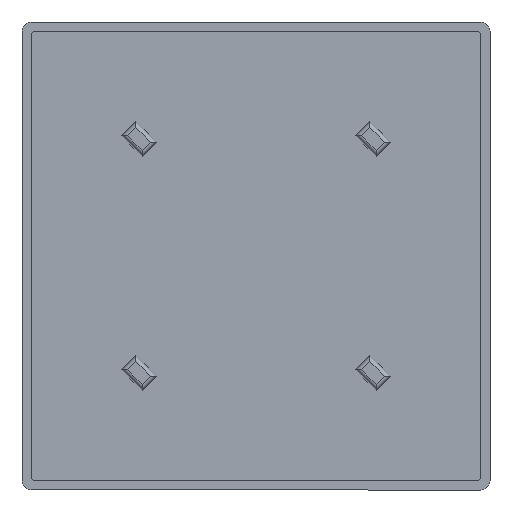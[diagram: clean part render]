
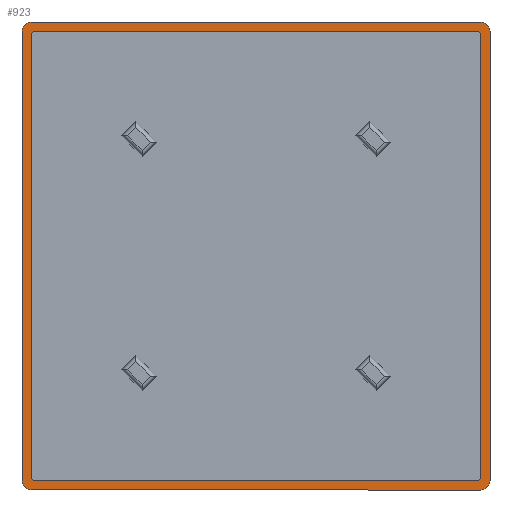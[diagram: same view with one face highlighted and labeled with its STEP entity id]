
A CAD part, front view. The second image highlights one B-rep face of the part: STEP entity #923.
In plain terms, the highlighted planar face has unit normal (0, -1, 0).
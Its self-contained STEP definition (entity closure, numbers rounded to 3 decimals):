
#23 = CARTESIAN_POINT ( 'NONE',  ( -50., -2., -48. ) ) ;
#24 = CIRCLE ( 'NONE', #120, 2. ) ;
#41 = AXIS2_PLACEMENT_3D ( 'NONE', #1073, #943, #793 ) ;
#57 = AXIS2_PLACEMENT_3D ( 'NONE', #1693, #448, #441 ) ;
#58 = CARTESIAN_POINT ( 'NONE',  ( -47.2, -2., 48. ) ) ;
#75 = VERTEX_POINT ( 'NONE', #537 ) ;
#84 = VECTOR ( 'NONE', #521, 1000. ) ;
#120 = AXIS2_PLACEMENT_3D ( 'NONE', #883, #864, #765 ) ;
#122 = VERTEX_POINT ( 'NONE', #622 ) ;
#126 = CARTESIAN_POINT ( 'NONE',  ( -50., -2., 48. ) ) ;
#140 = ORIENTED_EDGE ( 'NONE', *, *, #1004, .F. ) ;
#149 = DIRECTION ( 'NONE',  ( 0., 0., 1. ) ) ;
#178 = LINE ( 'NONE', #1488, #557 ) ;
#179 = CIRCLE ( 'NONE', #41, 2. ) ;
#197 = AXIS2_PLACEMENT_3D ( 'NONE', #1352, #1349, #1345 ) ;
#263 = ORIENTED_EDGE ( 'NONE', *, *, #680, .F. ) ;
#278 = CARTESIAN_POINT ( 'NONE',  ( 48., -2., -47.2 ) ) ;
#287 = ORIENTED_EDGE ( 'NONE', *, *, #1318, .F. ) ;
#311 = CARTESIAN_POINT ( 'NONE',  ( -47.2, -2., -48. ) ) ;
#354 = ORIENTED_EDGE ( 'NONE', *, *, #1249, .F. ) ;
#377 = LINE ( 'NONE', #810, #852 ) ;
#381 = ORIENTED_EDGE ( 'NONE', *, *, #648, .F. ) ;
#385 = CARTESIAN_POINT ( 'NONE',  ( 47.2, -2., 47.2 ) ) ;
#387 = ORIENTED_EDGE ( 'NONE', *, *, #460, .F. ) ;
#405 = ORIENTED_EDGE ( 'NONE', *, *, #1195, .F. ) ;
#417 = VERTEX_POINT ( 'NONE', #1804 ) ;
#431 = DIRECTION ( 'NONE',  ( 0., 0., 1. ) ) ;
#441 = DIRECTION ( 'NONE',  ( 0., 0., 1. ) ) ;
#443 = CARTESIAN_POINT ( 'NONE',  ( -48., -2., -47.2 ) ) ;
#448 = DIRECTION ( 'NONE',  ( 0., 1., 0. ) ) ;
#449 = VERTEX_POINT ( 'NONE', #1573 ) ;
#460 = EDGE_CURVE ( 'NONE', #417, #1446, #532, .T. ) ;
#487 = EDGE_CURVE ( 'NONE', #75, #417, #1572, .T. ) ;
#512 = EDGE_CURVE ( 'NONE', #612, #75, #24, .T. ) ;
#517 = ORIENTED_EDGE ( 'NONE', *, *, #1225, .F. ) ;
#521 = DIRECTION ( 'NONE',  ( 0., 0., -1. ) ) ;
#529 = FACE_OUTER_BOUND ( 'NONE', #839, .T. ) ;
#532 = CIRCLE ( 'NONE', #197, 2. ) ;
#537 = CARTESIAN_POINT ( 'NONE',  ( -48., -2., 50. ) ) ;
#547 = DIRECTION ( 'NONE',  ( 0., 0., -1. ) ) ;
#557 = VECTOR ( 'NONE', #149, 1000. ) ;
#561 = CARTESIAN_POINT ( 'NONE',  ( -47.2, -2., 47.2 ) ) ;
#565 = VERTEX_POINT ( 'NONE', #571 ) ;
#568 = EDGE_CURVE ( 'NONE', #884, #1111, #1183, .T. ) ;
#571 = CARTESIAN_POINT ( 'NONE',  ( 47.2, -2., -48. ) ) ;
#590 = AXIS2_PLACEMENT_3D ( 'NONE', #1600, #799, #1719 ) ;
#594 = DIRECTION ( 'NONE',  ( 0., 1., 0. ) ) ;
#612 = VERTEX_POINT ( 'NONE', #126 ) ;
#622 = CARTESIAN_POINT ( 'NONE',  ( -47.2, -2., 48. ) ) ;
#634 = ORIENTED_EDGE ( 'NONE', *, *, #487, .F. ) ;
#648 = EDGE_CURVE ( 'NONE', #775, #449, #179, .T. ) ;
#653 = AXIS2_PLACEMENT_3D ( 'NONE', #1233, #594, #431 ) ;
#661 = ORIENTED_EDGE ( 'NONE', *, *, #1060, .F. ) ;
#680 = EDGE_CURVE ( 'NONE', #449, #884, #978, .T. ) ;
#684 = LINE ( 'NONE', #711, #1403 ) ;
#689 = CARTESIAN_POINT ( 'NONE',  ( -47.2, -2., -47.2 ) ) ;
#704 = ORIENTED_EDGE ( 'NONE', *, *, #976, .F. ) ;
#711 = CARTESIAN_POINT ( 'NONE',  ( -50., -2., 48. ) ) ;
#712 = LINE ( 'NONE', #58, #1734 ) ;
#726 = DIRECTION ( 'NONE',  ( 0., 0., -1. ) ) ;
#761 = LINE ( 'NONE', #1437, #1083 ) ;
#765 = DIRECTION ( 'NONE',  ( 0., 0., 1. ) ) ;
#775 = VERTEX_POINT ( 'NONE', #783 ) ;
#777 = CARTESIAN_POINT ( 'NONE',  ( -48., -2., -50. ) ) ;
#783 = CARTESIAN_POINT ( 'NONE',  ( 50., -2., -48. ) ) ;
#789 = CIRCLE ( 'NONE', #1826, 0.8 ) ;
#792 = ORIENTED_EDGE ( 'NONE', *, *, #568, .F. ) ;
#793 = DIRECTION ( 'NONE',  ( 0., 0., 1. ) ) ;
#799 = DIRECTION ( 'NONE',  ( 0., -1., 0. ) ) ;
#810 = CARTESIAN_POINT ( 'NONE',  ( -48., -2., 47.2 ) ) ;
#839 = EDGE_LOOP ( 'NONE', ( #792, #263, #381, #892, #387, #634, #1041, #517 ) ) ;
#845 = DIRECTION ( 'NONE',  ( 0., 0., -1. ) ) ;
#852 = VECTOR ( 'NONE', #1728, 1000. ) ;
#853 = FACE_BOUND ( 'NONE', #957, .T. ) ;
#862 = VERTEX_POINT ( 'NONE', #1153 ) ;
#864 = DIRECTION ( 'NONE',  ( 0., 1., 0. ) ) ;
#883 = CARTESIAN_POINT ( 'NONE',  ( -48., -2., 48. ) ) ;
#884 = VERTEX_POINT ( 'NONE', #983 ) ;
#892 = ORIENTED_EDGE ( 'NONE', *, *, #1433, .F. ) ;
#896 = ORIENTED_EDGE ( 'NONE', *, *, #994, .F. ) ;
#907 = DIRECTION ( 'NONE',  ( -1., 0., 0. ) ) ;
#923 = ADVANCED_FACE ( 'NONE', ( #853, #529 ), #1818, .F. ) ;
#937 = VERTEX_POINT ( 'NONE', #278 ) ;
#943 = DIRECTION ( 'NONE',  ( 0., 1., 0. ) ) ;
#957 = EDGE_LOOP ( 'NONE', ( #287, #354, #896, #405, #1194, #661, #140, #704 ) ) ;
#972 = LINE ( 'NONE', #1518, #84 ) ;
#976 = EDGE_CURVE ( 'NONE', #1607, #1091, #1774, .T. ) ;
#978 = LINE ( 'NONE', #777, #1662 ) ;
#983 = CARTESIAN_POINT ( 'NONE',  ( -48., -2., -50. ) ) ;
#994 = EDGE_CURVE ( 'NONE', #862, #122, #712, .T. ) ;
#1002 = DIRECTION ( 'NONE',  ( 1., 0., 0. ) ) ;
#1004 = EDGE_CURVE ( 'NONE', #1091, #565, #761, .T. ) ;
#1027 = DIRECTION ( 'NONE',  ( 1., 0., 0. ) ) ;
#1034 = VERTEX_POINT ( 'NONE', #1413 ) ;
#1041 = ORIENTED_EDGE ( 'NONE', *, *, #512, .F. ) ;
#1060 = EDGE_CURVE ( 'NONE', #565, #937, #1424, .T. ) ;
#1067 = EDGE_CURVE ( 'NONE', #937, #1034, #178, .T. ) ;
#1073 = CARTESIAN_POINT ( 'NONE',  ( 48., -2., -48. ) ) ;
#1083 = VECTOR ( 'NONE', #1002, 1000. ) ;
#1091 = VERTEX_POINT ( 'NONE', #311 ) ;
#1111 = VERTEX_POINT ( 'NONE', #23 ) ;
#1146 = VERTEX_POINT ( 'NONE', #1760 ) ;
#1153 = CARTESIAN_POINT ( 'NONE',  ( 47.2, -2., 48. ) ) ;
#1183 = CIRCLE ( 'NONE', #57, 2. ) ;
#1194 = ORIENTED_EDGE ( 'NONE', *, *, #1067, .F. ) ;
#1195 = EDGE_CURVE ( 'NONE', #1034, #862, #789, .T. ) ;
#1219 = CARTESIAN_POINT ( 'NONE',  ( -48., -2., 50. ) ) ;
#1225 = EDGE_CURVE ( 'NONE', #1111, #612, #684, .T. ) ;
#1233 = CARTESIAN_POINT ( 'NONE',  ( -48., -2., -48. ) ) ;
#1249 = EDGE_CURVE ( 'NONE', #122, #1146, #1369, .T. ) ;
#1275 = VECTOR ( 'NONE', #1027, 1000. ) ;
#1318 = EDGE_CURVE ( 'NONE', #1146, #1607, #377, .T. ) ;
#1345 = DIRECTION ( 'NONE',  ( 0., 0., 1. ) ) ;
#1349 = DIRECTION ( 'NONE',  ( 0., 1., 0. ) ) ;
#1352 = CARTESIAN_POINT ( 'NONE',  ( 48., -2., 48. ) ) ;
#1369 = CIRCLE ( 'NONE', #1795, 0.8 ) ;
#1403 = VECTOR ( 'NONE', #1778, 1000. ) ;
#1413 = CARTESIAN_POINT ( 'NONE',  ( 48., -2., 47.2 ) ) ;
#1419 = DIRECTION ( 'NONE',  ( 0., -1., 0. ) ) ;
#1424 = CIRCLE ( 'NONE', #590, 0.8 ) ;
#1433 = EDGE_CURVE ( 'NONE', #1446, #775, #972, .T. ) ;
#1437 = CARTESIAN_POINT ( 'NONE',  ( -47.2, -2., -48. ) ) ;
#1446 = VERTEX_POINT ( 'NONE', #1681 ) ;
#1488 = CARTESIAN_POINT ( 'NONE',  ( 48., -2., 47.2 ) ) ;
#1517 = DIRECTION ( 'NONE',  ( -1., 0., 0. ) ) ;
#1518 = CARTESIAN_POINT ( 'NONE',  ( 50., -2., 48. ) ) ;
#1546 = DIRECTION ( 'NONE',  ( 0., -1., 0. ) ) ;
#1568 = AXIS2_PLACEMENT_3D ( 'NONE', #689, #1639, #845 ) ;
#1572 = LINE ( 'NONE', #1219, #1275 ) ;
#1573 = CARTESIAN_POINT ( 'NONE',  ( 48., -2., -50. ) ) ;
#1600 = CARTESIAN_POINT ( 'NONE',  ( 47.2, -2., -47.2 ) ) ;
#1607 = VERTEX_POINT ( 'NONE', #443 ) ;
#1639 = DIRECTION ( 'NONE',  ( 0., -1., 0. ) ) ;
#1662 = VECTOR ( 'NONE', #907, 1000. ) ;
#1681 = CARTESIAN_POINT ( 'NONE',  ( 50., -2., 48. ) ) ;
#1693 = CARTESIAN_POINT ( 'NONE',  ( -48., -2., -48. ) ) ;
#1719 = DIRECTION ( 'NONE',  ( 0., 0., -1. ) ) ;
#1728 = DIRECTION ( 'NONE',  ( 0., 0., -1. ) ) ;
#1734 = VECTOR ( 'NONE', #1517, 1000. ) ;
#1760 = CARTESIAN_POINT ( 'NONE',  ( -48., -2., 47.2 ) ) ;
#1774 = CIRCLE ( 'NONE', #1568, 0.8 ) ;
#1778 = DIRECTION ( 'NONE',  ( 0., 0., 1. ) ) ;
#1795 = AXIS2_PLACEMENT_3D ( 'NONE', #561, #1546, #726 ) ;
#1804 = CARTESIAN_POINT ( 'NONE',  ( 48., -2., 50. ) ) ;
#1818 = PLANE ( 'NONE',  #653 ) ;
#1826 = AXIS2_PLACEMENT_3D ( 'NONE', #385, #1419, #547 ) ;
